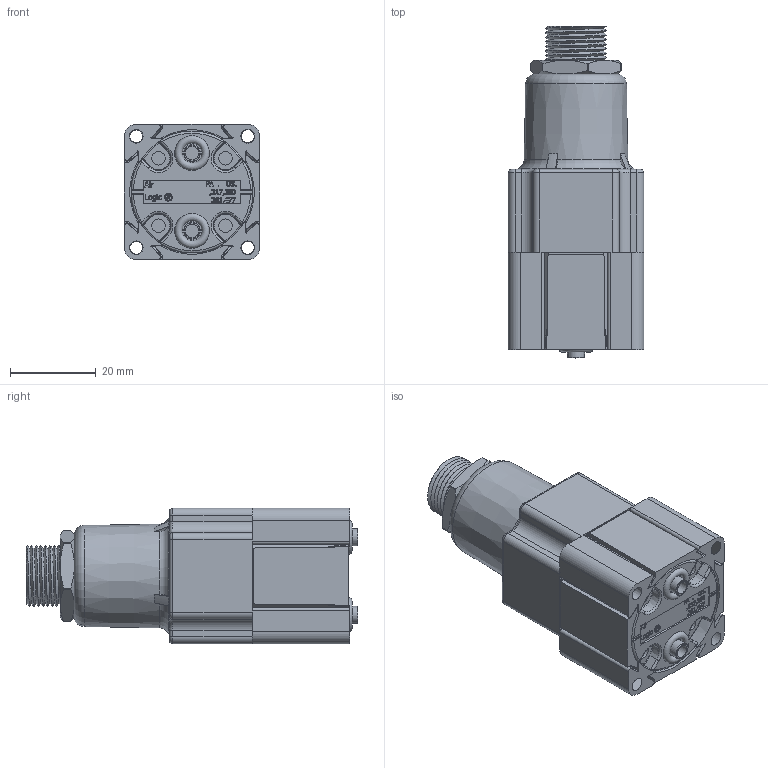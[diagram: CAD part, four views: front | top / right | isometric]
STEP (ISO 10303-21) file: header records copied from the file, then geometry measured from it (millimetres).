
FILE_DESCRIPTION(/* description */ (''),/* implementation_level */ '2;1');
FILE_NAME(/* name */ 'K:\Normteile INVENTOR\Air-Logic\Regulators\NR4000\R4100BBBBWOSMM for Promo Box.ipt.stp',/* time_stamp */ '2020-05-27T10:52:05+02:00',/* author */ ('J Mitchell'),/* organization */ (''),/* preprocessor_version */ 'ST-DEVELOPER v18',/* originating_system */ 'Autodesk Inventor 2020',/* authorisation */ '');
FILE_SCHEMA (('AUTOMOTIVE_DESIGN { 1 0 10303 214 3 1 1 }'));
Length unit declared in the file: inch
Products named in the file (1): R4100BBBBWOSMM for Promo Box
Bounding box: 31.72 x 77.44 x 31.72 mm (x, y, z)
Volume: 49465.2 mm3; surface area: 13904.1 mm2
Topology: 3 solids, 3 shells, 900 faces, 2371 edges, 1534 vertices
Faces by surface type: plane 429, bspline 240, cylinder 148, torus 45, cone 30, sphere 8
Full cylindrical faces by diameter (mm): 3.073 x2, 3.175 x4, 3.967 x2, 8.103 x2
Entity records: 33654 total; most frequent: CARTESIAN_POINT 11790, ORIENTED_EDGE 4718, DIRECTION 3678, EDGE_CURVE 2359, VERTEX_POINT 1534, LINE 1334, VECTOR 1334, AXIS2_PLACEMENT_3D 1172
